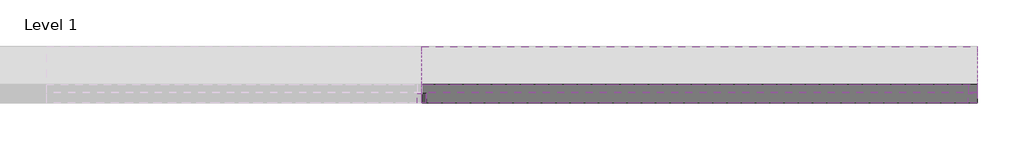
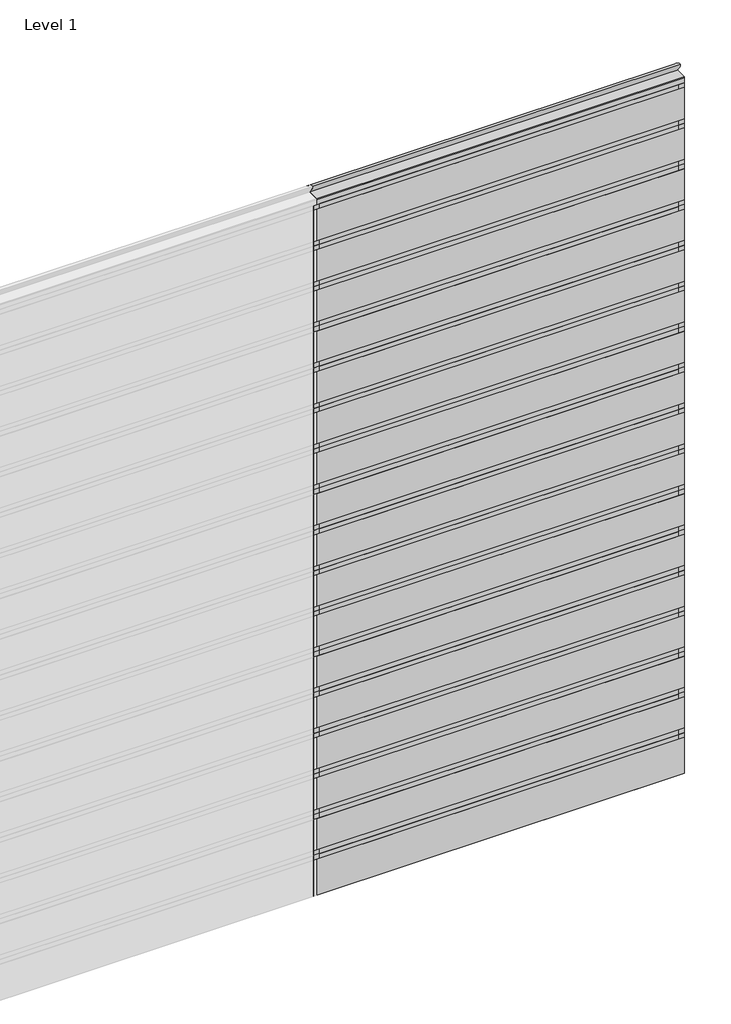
# One storey, part 2 of 2: 43 members, 36 plates.
"""IFC4 building model written with IfcOpenShell, lengths in millimetres."""

from ifc_helpers import new_model, si_unit, origin, place, context, project, spatial, transform, mapped, element, save
from components import rectangular_mullion_80596749, rectangular_mullion_94c598e1, rectangular_mullion_98250b89, empty_system_panel_empty_a2c5d73e, empty_system_panel_empty_14cff943, empty_system_panel_empty_231ba346, empty_system_panel_empty_a0d4dec4, empty_system_panel_empty_5b0c2a42

model = new_model("IFC4")

# Units and contexts
model_context = context("Model", 3, world=origin())
ifc_project = project(units=[si_unit("LENGTHUNIT", "METRE", prefix="MILLI")], contexts=[model_context])

# Site, building, storey
site = spatial("IfcSite", under=ifc_project)
building = spatial("IfcBuilding", under=site)
storey = spatial("IfcBuildingStorey", under=building, Name="Level 1", Elevation=0.0)

# Members
placement = place(None, origin())
rectangular_mullion_shape = rectangular_mullion_80596749(model_context)
element("IfcMember", 1, ObjectType="Rectangular Mullion : RSen_21_CWM_blade - 350 ellips - 45°_gen_duco projects", at=placement, inside=storey, context=model_context, shape_type="MappedRepresentation", body=[
    mapped(rectangular_mullion_shape, transform((3000.0, 3000.0, 3150.0), x_axis=(0.0, 0.0, 1.0), y_axis=(0.0, 1.0, 0.0), z_axis=(-1.0, 0.0, 0.0))),
])
element("IfcMember", 2, ObjectType="Rectangular Mullion : RSen_21_CWM_blade - 350 ellips - 45°_gen_duco projects", at=placement, inside=storey, context=model_context, shape_type="MappedRepresentation", body=[
    mapped(rectangular_mullion_shape, transform((3000.0, 3000.0, 3500.0), x_axis=(0.0, 0.0, 1.0), y_axis=(0.0, 1.0, 0.0), z_axis=(-1.0, 0.0, 0.0))),
])
element("IfcMember", 3, ObjectType="Rectangular Mullion : RSen_21_CWM_blade - 350 ellips - 45°_gen_duco projects", at=placement, inside=storey, context=model_context, shape_type="MappedRepresentation", body=[
    mapped(rectangular_mullion_shape, transform((3000.0, 3000.0, 3850.0), x_axis=(0.0, 0.0, 1.0), y_axis=(0.0, 1.0, 0.0), z_axis=(-1.0, 0.0, 0.0))),
])
element("IfcMember", 4, ObjectType="Rectangular Mullion : RSen_21_CWM_blade - 350 ellips - 45°_gen_duco projects", at=placement, inside=storey, context=model_context, shape_type="MappedRepresentation", body=[
    mapped(rectangular_mullion_shape, transform((3000.0, 3000.0, 4200.0), x_axis=(0.0, 0.0, 1.0), y_axis=(0.0, 1.0, 0.0), z_axis=(-1.0, 0.0, 0.0))),
])
element("IfcMember", 5, ObjectType="Rectangular Mullion : RSen_21_CWM_blade - 350 ellips - 45°_gen_duco projects", at=placement, inside=storey, context=model_context, shape_type="MappedRepresentation", body=[
    mapped(rectangular_mullion_shape, transform((3000.0, 3000.0, 4550.0), x_axis=(0.0, 0.0, 1.0), y_axis=(0.0, 1.0, 0.0), z_axis=(-1.0, 0.0, 0.0))),
])
element("IfcMember", 6, ObjectType="Rectangular Mullion : RSen_21_CWM_blade - 350 ellips - 45°_gen_duco projects", at=placement, inside=storey, context=model_context, shape_type="MappedRepresentation", body=[
    mapped(rectangular_mullion_shape, transform((3000.0, 3000.0, 4900.0), x_axis=(0.0, 0.0, 1.0), y_axis=(0.0, 1.0, 0.0), z_axis=(-1.0, 0.0, 0.0))),
])
element("IfcMember", 7, ObjectType="Rectangular Mullion : RSen_21_CWM_blade - 350 ellips - 45°_gen_duco projects", at=placement, inside=storey, context=model_context, shape_type="MappedRepresentation", body=[
    mapped(rectangular_mullion_shape, transform((3000.0, 3000.0, 5250.0), x_axis=(0.0, 0.0, 1.0), y_axis=(0.0, 1.0, 0.0), z_axis=(-1.0, 0.0, 0.0))),
])
element("IfcMember", 8, ObjectType="Rectangular Mullion : RSen_21_CWM_blade - 350 ellips - 45°_gen_duco projects", at=placement, inside=storey, context=model_context, shape_type="MappedRepresentation", body=[
    mapped(rectangular_mullion_shape, transform((3000.0, 3000.0, 5600.0), x_axis=(0.0, 0.0, 1.0), y_axis=(0.0, 1.0, 0.0), z_axis=(-1.0, 0.0, 0.0))),
])
element("IfcMember", 9, ObjectType="Rectangular Mullion : RSen_21_CWM_blade - 350 ellips - 45°_gen_duco projects", at=placement, inside=storey, context=model_context, shape_type="MappedRepresentation", body=[
    mapped(rectangular_mullion_shape, transform((3000.0, 3000.0, 5950.0), x_axis=(0.0, 0.0, 1.0), y_axis=(0.0, 1.0, 0.0), z_axis=(-1.0, 0.0, 0.0))),
])
rectangular_mullion_2_shape = rectangular_mullion_94c598e1(model_context)
element("IfcMember", 10, ObjectType="Rectangular Mullion : RSen_21_CWM_support profile 50x50_gen_duco projects", at=placement, inside=storey, context=model_context, shape_type="MappedRepresentation", body=[
    mapped(rectangular_mullion_2_shape, transform((3000.0, 3000.0, 0.0), x_axis=(-1.0, 0.0, 0.0), y_axis=(0.0, 1.0, 0.0), z_axis=(0.0, 0.0, -1.0))),
])
element("IfcMember", 11, ObjectType="Rectangular Mullion : RSen_21_CWM_support profile 50x50_gen_duco projects", at=placement, inside=storey, context=model_context, shape_type="MappedRepresentation", body=[
    mapped(rectangular_mullion_2_shape, transform((3000.0, 3000.0, 350.0), x_axis=(-1.0, 0.0, 0.0), y_axis=(0.0, 1.0, 0.0), z_axis=(0.0, 0.0, -1.0))),
])
element("IfcMember", 12, ObjectType="Rectangular Mullion : RSen_21_CWM_support profile 50x50_gen_duco projects", at=placement, inside=storey, context=model_context, shape_type="MappedRepresentation", body=[
    mapped(rectangular_mullion_2_shape, transform((3000.0, 3000.0, 700.0), x_axis=(-1.0, 0.0, 0.0), y_axis=(0.0, 1.0, 0.0), z_axis=(0.0, 0.0, -1.0))),
])
element("IfcMember", 13, ObjectType="Rectangular Mullion : RSen_21_CWM_support profile 50x50_gen_duco projects", at=placement, inside=storey, context=model_context, shape_type="MappedRepresentation", body=[
    mapped(rectangular_mullion_2_shape, transform((3000.0, 3000.0, 1050.0), x_axis=(-1.0, 0.0, 0.0), y_axis=(0.0, 1.0, 0.0), z_axis=(0.0, 0.0, -1.0))),
])
element("IfcMember", 14, ObjectType="Rectangular Mullion : RSen_21_CWM_support profile 50x50_gen_duco projects", at=placement, inside=storey, context=model_context, shape_type="MappedRepresentation", body=[
    mapped(rectangular_mullion_2_shape, transform((3000.0, 3000.0, 1400.0), x_axis=(-1.0, 0.0, 0.0), y_axis=(0.0, 1.0, 0.0), z_axis=(0.0, 0.0, -1.0))),
])
element("IfcMember", 15, ObjectType="Rectangular Mullion : RSen_21_CWM_support profile 50x50_gen_duco projects", at=placement, inside=storey, context=model_context, shape_type="MappedRepresentation", body=[
    mapped(rectangular_mullion_2_shape, transform((3000.0, 3000.0, 1750.0), x_axis=(-1.0, 0.0, 0.0), y_axis=(0.0, 1.0, 0.0), z_axis=(0.0, 0.0, -1.0))),
])
element("IfcMember", 16, ObjectType="Rectangular Mullion : RSen_21_CWM_support profile 50x50_gen_duco projects", at=placement, inside=storey, context=model_context, shape_type="MappedRepresentation", body=[
    mapped(rectangular_mullion_2_shape, transform((3000.0, 3000.0, 2100.0), x_axis=(-1.0, 0.0, 0.0), y_axis=(0.0, 1.0, 0.0), z_axis=(0.0, 0.0, -1.0))),
])
element("IfcMember", 17, ObjectType="Rectangular Mullion : RSen_21_CWM_support profile 50x50_gen_duco projects", at=placement, inside=storey, context=model_context, shape_type="MappedRepresentation", body=[
    mapped(rectangular_mullion_2_shape, transform((3000.0, 3000.0, 2450.0), x_axis=(-1.0, 0.0, 0.0), y_axis=(0.0, 1.0, 0.0), z_axis=(0.0, 0.0, -1.0))),
])
element("IfcMember", 18, ObjectType="Rectangular Mullion : RSen_21_CWM_support profile 50x50_gen_duco projects", at=placement, inside=storey, context=model_context, shape_type="MappedRepresentation", body=[
    mapped(rectangular_mullion_2_shape, transform((3000.0, 3000.0, 2800.0), x_axis=(-1.0, 0.0, 0.0), y_axis=(0.0, 1.0, 0.0), z_axis=(0.0, 0.0, -1.0))),
])
element("IfcMember", 19, ObjectType="Rectangular Mullion : RSen_21_CWM_support profile 50x50_gen_duco projects", at=placement, inside=storey, context=model_context, shape_type="MappedRepresentation", body=[
    mapped(rectangular_mullion_2_shape, transform((3000.0, 3000.0, 3150.0), x_axis=(-1.0, 0.0, 0.0), y_axis=(0.0, 1.0, 0.0), z_axis=(0.0, 0.0, -1.0))),
])
element("IfcMember", 20, ObjectType="Rectangular Mullion : RSen_21_CWM_support profile 50x50_gen_duco projects", at=placement, inside=storey, context=model_context, shape_type="MappedRepresentation", body=[
    mapped(rectangular_mullion_2_shape, transform((3000.0, 3000.0, 3500.0), x_axis=(-1.0, 0.0, 0.0), y_axis=(0.0, 1.0, 0.0), z_axis=(0.0, 0.0, -1.0))),
])
element("IfcMember", 21, ObjectType="Rectangular Mullion : RSen_21_CWM_support profile 50x50_gen_duco projects", at=placement, inside=storey, context=model_context, shape_type="MappedRepresentation", body=[
    mapped(rectangular_mullion_2_shape, transform((3000.0, 3000.0, 3850.0), x_axis=(-1.0, 0.0, 0.0), y_axis=(0.0, 1.0, 0.0), z_axis=(0.0, 0.0, -1.0))),
])
element("IfcMember", 22, ObjectType="Rectangular Mullion : RSen_21_CWM_support profile 50x50_gen_duco projects", at=placement, inside=storey, context=model_context, shape_type="MappedRepresentation", body=[
    mapped(rectangular_mullion_2_shape, transform((3000.0, 3000.0, 4200.0), x_axis=(-1.0, 0.0, 0.0), y_axis=(0.0, 1.0, 0.0), z_axis=(0.0, 0.0, -1.0))),
])
element("IfcMember", 23, ObjectType="Rectangular Mullion : RSen_21_CWM_support profile 50x50_gen_duco projects", at=placement, inside=storey, context=model_context, shape_type="MappedRepresentation", body=[
    mapped(rectangular_mullion_2_shape, transform((3000.0, 3000.0, 4550.0), x_axis=(-1.0, 0.0, 0.0), y_axis=(0.0, 1.0, 0.0), z_axis=(0.0, 0.0, -1.0))),
])
element("IfcMember", 24, ObjectType="Rectangular Mullion : RSen_21_CWM_support profile 50x50_gen_duco projects", at=placement, inside=storey, context=model_context, shape_type="MappedRepresentation", body=[
    mapped(rectangular_mullion_2_shape, transform((3000.0, 3000.0, 4900.0), x_axis=(-1.0, 0.0, 0.0), y_axis=(0.0, 1.0, 0.0), z_axis=(0.0, 0.0, -1.0))),
])
element("IfcMember", 25, ObjectType="Rectangular Mullion : RSen_21_CWM_support profile 50x50_gen_duco projects", at=placement, inside=storey, context=model_context, shape_type="MappedRepresentation", body=[
    mapped(rectangular_mullion_2_shape, transform((3000.0, 3000.0, 5250.0), x_axis=(-1.0, 0.0, 0.0), y_axis=(0.0, 1.0, 0.0), z_axis=(0.0, 0.0, -1.0))),
])
element("IfcMember", 26, ObjectType="Rectangular Mullion : RSen_21_CWM_support profile 50x50_gen_duco projects", at=placement, inside=storey, context=model_context, shape_type="MappedRepresentation", body=[
    mapped(rectangular_mullion_2_shape, transform((3000.0, 3000.0, 5600.0), x_axis=(-1.0, 0.0, 0.0), y_axis=(0.0, 1.0, 0.0), z_axis=(0.0, 0.0, -1.0))),
])
rectangular_mullion_3_shape = rectangular_mullion_98250b89(model_context)
element("IfcMember", 27, ObjectType="Rectangular Mullion : RSen_21_CWM_support profile 50x50 - right_gen_duco projects", at=placement, inside=storey, context=model_context, shape_type="MappedRepresentation", body=[
    mapped(rectangular_mullion_3_shape, transform((6000.0, 3000.0, 350.0), x_axis=(1.0, 0.0, 0.0), y_axis=(0.0, 1.0, 0.0), z_axis=(0.0, 0.0, 1.0))),
])
element("IfcMember", 28, ObjectType="Rectangular Mullion : RSen_21_CWM_support profile 50x50 - right_gen_duco projects", at=placement, inside=storey, context=model_context, shape_type="MappedRepresentation", body=[
    mapped(rectangular_mullion_3_shape, transform((6000.0, 3000.0, 700.0), x_axis=(1.0, 0.0, 0.0), y_axis=(0.0, 1.0, 0.0), z_axis=(0.0, 0.0, 1.0))),
])
element("IfcMember", 29, ObjectType="Rectangular Mullion : RSen_21_CWM_support profile 50x50 - right_gen_duco projects", at=placement, inside=storey, context=model_context, shape_type="MappedRepresentation", body=[
    mapped(rectangular_mullion_3_shape, transform((6000.0, 3000.0, 1050.0), x_axis=(1.0, 0.0, 0.0), y_axis=(0.0, 1.0, 0.0), z_axis=(0.0, 0.0, 1.0))),
])
element("IfcMember", 30, ObjectType="Rectangular Mullion : RSen_21_CWM_support profile 50x50 - right_gen_duco projects", at=placement, inside=storey, context=model_context, shape_type="MappedRepresentation", body=[
    mapped(rectangular_mullion_3_shape, transform((6000.0, 3000.0, 1400.0), x_axis=(1.0, 0.0, 0.0), y_axis=(0.0, 1.0, 0.0), z_axis=(0.0, 0.0, 1.0))),
])
element("IfcMember", 31, ObjectType="Rectangular Mullion : RSen_21_CWM_support profile 50x50 - right_gen_duco projects", at=placement, inside=storey, context=model_context, shape_type="MappedRepresentation", body=[
    mapped(rectangular_mullion_3_shape, transform((6000.0, 3000.0, 1750.0), x_axis=(1.0, 0.0, 0.0), y_axis=(0.0, 1.0, 0.0), z_axis=(0.0, 0.0, 1.0))),
])
element("IfcMember", 32, ObjectType="Rectangular Mullion : RSen_21_CWM_support profile 50x50 - right_gen_duco projects", at=placement, inside=storey, context=model_context, shape_type="MappedRepresentation", body=[
    mapped(rectangular_mullion_3_shape, transform((6000.0, 3000.0, 2100.0), x_axis=(1.0, 0.0, 0.0), y_axis=(0.0, 1.0, 0.0), z_axis=(0.0, 0.0, 1.0))),
])
element("IfcMember", 33, ObjectType="Rectangular Mullion : RSen_21_CWM_support profile 50x50 - right_gen_duco projects", at=placement, inside=storey, context=model_context, shape_type="MappedRepresentation", body=[
    mapped(rectangular_mullion_3_shape, transform((6000.0, 3000.0, 2450.0), x_axis=(1.0, 0.0, 0.0), y_axis=(0.0, 1.0, 0.0), z_axis=(0.0, 0.0, 1.0))),
])
element("IfcMember", 34, ObjectType="Rectangular Mullion : RSen_21_CWM_support profile 50x50 - right_gen_duco projects", at=placement, inside=storey, context=model_context, shape_type="MappedRepresentation", body=[
    mapped(rectangular_mullion_3_shape, transform((6000.0, 3000.0, 2800.0), x_axis=(1.0, 0.0, 0.0), y_axis=(0.0, 1.0, 0.0), z_axis=(0.0, 0.0, 1.0))),
])
element("IfcMember", 35, ObjectType="Rectangular Mullion : RSen_21_CWM_support profile 50x50 - right_gen_duco projects", at=placement, inside=storey, context=model_context, shape_type="MappedRepresentation", body=[
    mapped(rectangular_mullion_3_shape, transform((6000.0, 3000.0, 3150.0), x_axis=(1.0, 0.0, 0.0), y_axis=(0.0, 1.0, 0.0), z_axis=(0.0, 0.0, 1.0))),
])
element("IfcMember", 36, ObjectType="Rectangular Mullion : RSen_21_CWM_support profile 50x50 - right_gen_duco projects", at=placement, inside=storey, context=model_context, shape_type="MappedRepresentation", body=[
    mapped(rectangular_mullion_3_shape, transform((6000.0, 3000.0, 3500.0), x_axis=(1.0, 0.0, 0.0), y_axis=(0.0, 1.0, 0.0), z_axis=(0.0, 0.0, 1.0))),
])
element("IfcMember", 37, ObjectType="Rectangular Mullion : RSen_21_CWM_support profile 50x50 - right_gen_duco projects", at=placement, inside=storey, context=model_context, shape_type="MappedRepresentation", body=[
    mapped(rectangular_mullion_3_shape, transform((6000.0, 3000.0, 3850.0), x_axis=(1.0, 0.0, 0.0), y_axis=(0.0, 1.0, 0.0), z_axis=(0.0, 0.0, 1.0))),
])
element("IfcMember", 38, ObjectType="Rectangular Mullion : RSen_21_CWM_support profile 50x50 - right_gen_duco projects", at=placement, inside=storey, context=model_context, shape_type="MappedRepresentation", body=[
    mapped(rectangular_mullion_3_shape, transform((6000.0, 3000.0, 4200.0), x_axis=(1.0, 0.0, 0.0), y_axis=(0.0, 1.0, 0.0), z_axis=(0.0, 0.0, 1.0))),
])
element("IfcMember", 39, ObjectType="Rectangular Mullion : RSen_21_CWM_support profile 50x50 - right_gen_duco projects", at=placement, inside=storey, context=model_context, shape_type="MappedRepresentation", body=[
    mapped(rectangular_mullion_3_shape, transform((6000.0, 3000.0, 4550.0), x_axis=(1.0, 0.0, 0.0), y_axis=(0.0, 1.0, 0.0), z_axis=(0.0, 0.0, 1.0))),
])
element("IfcMember", 40, ObjectType="Rectangular Mullion : RSen_21_CWM_support profile 50x50 - right_gen_duco projects", at=placement, inside=storey, context=model_context, shape_type="MappedRepresentation", body=[
    mapped(rectangular_mullion_3_shape, transform((6000.0, 3000.0, 4900.0), x_axis=(1.0, 0.0, 0.0), y_axis=(0.0, 1.0, 0.0), z_axis=(0.0, 0.0, 1.0))),
])
element("IfcMember", 41, ObjectType="Rectangular Mullion : RSen_21_CWM_support profile 50x50 - right_gen_duco projects", at=placement, inside=storey, context=model_context, shape_type="MappedRepresentation", body=[
    mapped(rectangular_mullion_3_shape, transform((6000.0, 3000.0, 5250.0), x_axis=(1.0, 0.0, 0.0), y_axis=(0.0, 1.0, 0.0), z_axis=(0.0, 0.0, 1.0))),
])
element("IfcMember", 42, ObjectType="Rectangular Mullion : RSen_21_CWM_support profile 50x50 - right_gen_duco projects", at=placement, inside=storey, context=model_context, shape_type="MappedRepresentation", body=[
    mapped(rectangular_mullion_3_shape, transform((6000.0, 3000.0, 5600.0), x_axis=(1.0, 0.0, 0.0), y_axis=(0.0, 1.0, 0.0), z_axis=(0.0, 0.0, 1.0))),
])
element("IfcMember", 43, ObjectType="Rectangular Mullion : RSen_21_CWM_support profile 50x50 - right_gen_duco projects", at=placement, inside=storey, context=model_context, shape_type="MappedRepresentation", body=[
    mapped(rectangular_mullion_3_shape, transform((6000.0, 3000.0, 5950.0), x_axis=(1.0, 0.0, 0.0), y_axis=(0.0, 1.0, 0.0), z_axis=(0.0, 0.0, 1.0))),
])

# Plates
empty_system_panel_empty_shape = empty_system_panel_empty_a2c5d73e(model_context)
element("IfcPlate", 44, ObjectType="Empty System Panel : Empty", at=placement, inside=storey, context=model_context, shape_type="MappedRepresentation", body=[
    mapped(empty_system_panel_empty_shape, transform((4500.0, 3000.0, 5990.3050865), x_axis=(-1.0, 0.0, 0.0), y_axis=(0.0, -1.0, 0.0), z_axis=(0.0, 0.0, 1.0))),
])
empty_system_panel_empty_2_shape = empty_system_panel_empty_14cff943(model_context)
element("IfcPlate", 45, ObjectType="Empty System Panel : Empty", at=placement, inside=storey, context=model_context, shape_type="MappedRepresentation", body=[
    mapped(empty_system_panel_empty_2_shape, transform((4500.0, 3000.0, 0.0), x_axis=(-1.0, 0.0, 0.0), y_axis=(0.0, -1.0, 0.0), z_axis=(0.0, 0.0, 1.0))),
])
empty_system_panel_empty_3_shape = empty_system_panel_empty_231ba346(model_context)
element("IfcPlate", 46, ObjectType="Empty System Panel : Empty", at=placement, inside=storey, context=model_context, shape_type="MappedRepresentation", body=[
    mapped(empty_system_panel_empty_3_shape, transform((4500.0, 3000.0, 390.3050865), x_axis=(-1.0, 0.0, 0.0), y_axis=(0.0, -1.0, 0.0), z_axis=(0.0, 0.0, 1.0))),
])
element("IfcPlate", 47, ObjectType="Empty System Panel : Empty", at=placement, inside=storey, context=model_context, shape_type="MappedRepresentation", body=[
    mapped(empty_system_panel_empty_3_shape, transform((4500.0, 3000.0, 740.3050865), x_axis=(-1.0, 0.0, 0.0), y_axis=(0.0, -1.0, 0.0), z_axis=(0.0, 0.0, 1.0))),
])
element("IfcPlate", 48, ObjectType="Empty System Panel : Empty", at=placement, inside=storey, context=model_context, shape_type="MappedRepresentation", body=[
    mapped(empty_system_panel_empty_3_shape, transform((4500.0, 3000.0, 1090.3050865), x_axis=(-1.0, 0.0, 0.0), y_axis=(0.0, -1.0, 0.0), z_axis=(0.0, 0.0, 1.0))),
])
element("IfcPlate", 49, ObjectType="Empty System Panel : Empty", at=placement, inside=storey, context=model_context, shape_type="MappedRepresentation", body=[
    mapped(empty_system_panel_empty_3_shape, transform((4500.0, 3000.0, 1440.3050865), x_axis=(-1.0, 0.0, 0.0), y_axis=(0.0, -1.0, 0.0), z_axis=(0.0, 0.0, 1.0))),
])
element("IfcPlate", 50, ObjectType="Empty System Panel : Empty", at=placement, inside=storey, context=model_context, shape_type="MappedRepresentation", body=[
    mapped(empty_system_panel_empty_3_shape, transform((4500.0, 3000.0, 1790.3050865), x_axis=(-1.0, 0.0, 0.0), y_axis=(0.0, -1.0, 0.0), z_axis=(0.0, 0.0, 1.0))),
])
element("IfcPlate", 51, ObjectType="Empty System Panel : Empty", at=placement, inside=storey, context=model_context, shape_type="MappedRepresentation", body=[
    mapped(empty_system_panel_empty_3_shape, transform((4500.0, 3000.0, 2140.3050865), x_axis=(-1.0, 0.0, 0.0), y_axis=(0.0, -1.0, 0.0), z_axis=(0.0, 0.0, 1.0))),
])
element("IfcPlate", 52, ObjectType="Empty System Panel : Empty", at=placement, inside=storey, context=model_context, shape_type="MappedRepresentation", body=[
    mapped(empty_system_panel_empty_3_shape, transform((4500.0, 3000.0, 2490.3050865), x_axis=(-1.0, 0.0, 0.0), y_axis=(0.0, -1.0, 0.0), z_axis=(0.0, 0.0, 1.0))),
])
element("IfcPlate", 53, ObjectType="Empty System Panel : Empty", at=placement, inside=storey, context=model_context, shape_type="MappedRepresentation", body=[
    mapped(empty_system_panel_empty_3_shape, transform((4500.0, 3000.0, 2840.3050865), x_axis=(-1.0, 0.0, 0.0), y_axis=(0.0, -1.0, 0.0), z_axis=(0.0, 0.0, 1.0))),
])
element("IfcPlate", 54, ObjectType="Empty System Panel : Empty", at=placement, inside=storey, context=model_context, shape_type="MappedRepresentation", body=[
    mapped(empty_system_panel_empty_3_shape, transform((4500.0, 3000.0, 3190.3050865), x_axis=(-1.0, 0.0, 0.0), y_axis=(0.0, -1.0, 0.0), z_axis=(0.0, 0.0, 1.0))),
])
element("IfcPlate", 55, ObjectType="Empty System Panel : Empty", at=placement, inside=storey, context=model_context, shape_type="MappedRepresentation", body=[
    mapped(empty_system_panel_empty_3_shape, transform((4500.0, 3000.0, 3540.3050865), x_axis=(-1.0, 0.0, 0.0), y_axis=(0.0, -1.0, 0.0), z_axis=(0.0, 0.0, 1.0))),
])
element("IfcPlate", 56, ObjectType="Empty System Panel : Empty", at=placement, inside=storey, context=model_context, shape_type="MappedRepresentation", body=[
    mapped(empty_system_panel_empty_3_shape, transform((4500.0, 3000.0, 3890.3050865), x_axis=(-1.0, 0.0, 0.0), y_axis=(0.0, -1.0, 0.0), z_axis=(0.0, 0.0, 1.0))),
])
element("IfcPlate", 57, ObjectType="Empty System Panel : Empty", at=placement, inside=storey, context=model_context, shape_type="MappedRepresentation", body=[
    mapped(empty_system_panel_empty_3_shape, transform((4500.0, 3000.0, 4240.3050865), x_axis=(-1.0, 0.0, 0.0), y_axis=(0.0, -1.0, 0.0), z_axis=(0.0, 0.0, 1.0))),
])
element("IfcPlate", 58, ObjectType="Empty System Panel : Empty", at=placement, inside=storey, context=model_context, shape_type="MappedRepresentation", body=[
    mapped(empty_system_panel_empty_3_shape, transform((4500.0, 3000.0, 4590.3050865), x_axis=(-1.0, 0.0, 0.0), y_axis=(0.0, -1.0, 0.0), z_axis=(0.0, 0.0, 1.0))),
])
element("IfcPlate", 59, ObjectType="Empty System Panel : Empty", at=placement, inside=storey, context=model_context, shape_type="MappedRepresentation", body=[
    mapped(empty_system_panel_empty_3_shape, transform((4500.0, 3000.0, 4940.3050865), x_axis=(-1.0, 0.0, 0.0), y_axis=(0.0, -1.0, 0.0), z_axis=(0.0, 0.0, 1.0))),
])
element("IfcPlate", 60, ObjectType="Empty System Panel : Empty", at=placement, inside=storey, context=model_context, shape_type="MappedRepresentation", body=[
    mapped(empty_system_panel_empty_3_shape, transform((4500.0, 3000.0, 5290.3050865), x_axis=(-1.0, 0.0, 0.0), y_axis=(0.0, -1.0, 0.0), z_axis=(0.0, 0.0, 1.0))),
])
element("IfcPlate", 61, ObjectType="Empty System Panel : Empty", at=placement, inside=storey, context=model_context, shape_type="MappedRepresentation", body=[
    mapped(empty_system_panel_empty_3_shape, transform((4500.0, 3000.0, 5640.3050865), x_axis=(-1.0, 0.0, 0.0), y_axis=(0.0, -1.0, 0.0), z_axis=(0.0, 0.0, 1.0))),
])
empty_system_panel_empty_4_shape = empty_system_panel_empty_a0d4dec4(model_context)
element("IfcPlate", 62, ObjectType="Empty System Panel : Empty", at=placement, inside=storey, context=model_context, shape_type="MappedRepresentation", body=[
    mapped(empty_system_panel_empty_4_shape, transform((4487.5, 3000.0, 0.0), x_axis=(-1.0, 0.0, 0.0), y_axis=(0.0, -1.0, 0.0), z_axis=(0.0, 0.0, 1.0))),
])
element("IfcPlate", 63, ObjectType="Empty System Panel : Empty", at=placement, inside=storey, context=model_context, shape_type="MappedRepresentation", body=[
    mapped(empty_system_panel_empty_4_shape, transform((4487.5, 3000.0, 350.0), x_axis=(-1.0, 0.0, 0.0), y_axis=(0.0, -1.0, 0.0), z_axis=(0.0, 0.0, 1.0))),
])
element("IfcPlate", 64, ObjectType="Empty System Panel : Empty", at=placement, inside=storey, context=model_context, shape_type="MappedRepresentation", body=[
    mapped(empty_system_panel_empty_4_shape, transform((4487.5, 3000.0, 700.0), x_axis=(-1.0, 0.0, 0.0), y_axis=(0.0, -1.0, 0.0), z_axis=(0.0, 0.0, 1.0))),
])
element("IfcPlate", 65, ObjectType="Empty System Panel : Empty", at=placement, inside=storey, context=model_context, shape_type="MappedRepresentation", body=[
    mapped(empty_system_panel_empty_4_shape, transform((4487.5, 3000.0, 1050.0), x_axis=(-1.0, 0.0, 0.0), y_axis=(0.0, -1.0, 0.0), z_axis=(0.0, 0.0, 1.0))),
])
element("IfcPlate", 66, ObjectType="Empty System Panel : Empty", at=placement, inside=storey, context=model_context, shape_type="MappedRepresentation", body=[
    mapped(empty_system_panel_empty_4_shape, transform((4487.5, 3000.0, 1400.0), x_axis=(-1.0, 0.0, 0.0), y_axis=(0.0, -1.0, 0.0), z_axis=(0.0, 0.0, 1.0))),
])
element("IfcPlate", 67, ObjectType="Empty System Panel : Empty", at=placement, inside=storey, context=model_context, shape_type="MappedRepresentation", body=[
    mapped(empty_system_panel_empty_4_shape, transform((4487.5, 3000.0, 1750.0), x_axis=(-1.0, 0.0, 0.0), y_axis=(0.0, -1.0, 0.0), z_axis=(0.0, 0.0, 1.0))),
])
element("IfcPlate", 68, ObjectType="Empty System Panel : Empty", at=placement, inside=storey, context=model_context, shape_type="MappedRepresentation", body=[
    mapped(empty_system_panel_empty_4_shape, transform((4487.5, 3000.0, 2100.0), x_axis=(-1.0, 0.0, 0.0), y_axis=(0.0, -1.0, 0.0), z_axis=(0.0, 0.0, 1.0))),
])
element("IfcPlate", 69, ObjectType="Empty System Panel : Empty", at=placement, inside=storey, context=model_context, shape_type="MappedRepresentation", body=[
    mapped(empty_system_panel_empty_4_shape, transform((4487.5, 3000.0, 2450.0), x_axis=(-1.0, 0.0, 0.0), y_axis=(0.0, -1.0, 0.0), z_axis=(0.0, 0.0, 1.0))),
])
element("IfcPlate", 70, ObjectType="Empty System Panel : Empty", at=placement, inside=storey, context=model_context, shape_type="MappedRepresentation", body=[
    mapped(empty_system_panel_empty_4_shape, transform((4487.5, 3000.0, 2800.0), x_axis=(-1.0, 0.0, 0.0), y_axis=(0.0, -1.0, 0.0), z_axis=(0.0, 0.0, 1.0))),
])
element("IfcPlate", 71, ObjectType="Empty System Panel : Empty", at=placement, inside=storey, context=model_context, shape_type="MappedRepresentation", body=[
    mapped(empty_system_panel_empty_4_shape, transform((4487.5, 3000.0, 3150.0), x_axis=(-1.0, 0.0, 0.0), y_axis=(0.0, -1.0, 0.0), z_axis=(0.0, 0.0, 1.0))),
])
element("IfcPlate", 72, ObjectType="Empty System Panel : Empty", at=placement, inside=storey, context=model_context, shape_type="MappedRepresentation", body=[
    mapped(empty_system_panel_empty_4_shape, transform((4487.5, 3000.0, 3500.0), x_axis=(-1.0, 0.0, 0.0), y_axis=(0.0, -1.0, 0.0), z_axis=(0.0, 0.0, 1.0))),
])
element("IfcPlate", 73, ObjectType="Empty System Panel : Empty", at=placement, inside=storey, context=model_context, shape_type="MappedRepresentation", body=[
    mapped(empty_system_panel_empty_4_shape, transform((4487.5, 3000.0, 3850.0), x_axis=(-1.0, 0.0, 0.0), y_axis=(0.0, -1.0, 0.0), z_axis=(0.0, 0.0, 1.0))),
])
element("IfcPlate", 74, ObjectType="Empty System Panel : Empty", at=placement, inside=storey, context=model_context, shape_type="MappedRepresentation", body=[
    mapped(empty_system_panel_empty_4_shape, transform((4487.5, 3000.0, 4200.0), x_axis=(-1.0, 0.0, 0.0), y_axis=(0.0, -1.0, 0.0), z_axis=(0.0, 0.0, 1.0))),
])
element("IfcPlate", 75, ObjectType="Empty System Panel : Empty", at=placement, inside=storey, context=model_context, shape_type="MappedRepresentation", body=[
    mapped(empty_system_panel_empty_4_shape, transform((4487.5, 3000.0, 4550.0), x_axis=(-1.0, 0.0, 0.0), y_axis=(0.0, -1.0, 0.0), z_axis=(0.0, 0.0, 1.0))),
])
element("IfcPlate", 76, ObjectType="Empty System Panel : Empty", at=placement, inside=storey, context=model_context, shape_type="MappedRepresentation", body=[
    mapped(empty_system_panel_empty_4_shape, transform((4487.5, 3000.0, 4900.0), x_axis=(-1.0, 0.0, 0.0), y_axis=(0.0, -1.0, 0.0), z_axis=(0.0, 0.0, 1.0))),
])
element("IfcPlate", 77, ObjectType="Empty System Panel : Empty", at=placement, inside=storey, context=model_context, shape_type="MappedRepresentation", body=[
    mapped(empty_system_panel_empty_4_shape, transform((4487.5, 3000.0, 5250.0), x_axis=(-1.0, 0.0, 0.0), y_axis=(0.0, -1.0, 0.0), z_axis=(0.0, 0.0, 1.0))),
])
element("IfcPlate", 78, ObjectType="Empty System Panel : Empty", at=placement, inside=storey, context=model_context, shape_type="MappedRepresentation", body=[
    mapped(empty_system_panel_empty_4_shape, transform((4487.5, 3000.0, 5600.0), x_axis=(-1.0, 0.0, 0.0), y_axis=(0.0, -1.0, 0.0), z_axis=(0.0, 0.0, 1.0))),
])
empty_system_panel_empty_5_shape = empty_system_panel_empty_5b0c2a42(model_context)
element("IfcPlate", 79, ObjectType="Empty System Panel : Empty", at=placement, inside=storey, context=model_context, shape_type="MappedRepresentation", body=[
    mapped(empty_system_panel_empty_5_shape, transform((4500.0, 3000.0, 5950.0), x_axis=(-1.0, 0.0, 0.0), y_axis=(0.0, -1.0, 0.0), z_axis=(0.0, 0.0, 1.0))),
])

save(model, "model.ifc")
